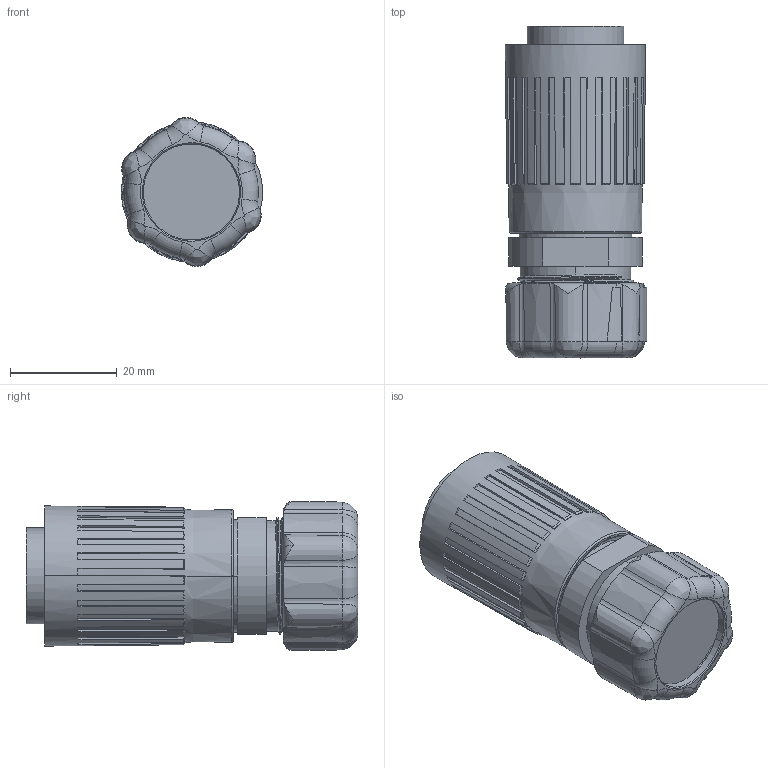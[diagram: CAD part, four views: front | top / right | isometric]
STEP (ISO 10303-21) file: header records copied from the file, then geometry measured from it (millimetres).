
FILE_DESCRIPTION((''),'2;1');
FILE_NAME('489','2019-07-16T',('Administrator'),(''),'CREO PARAMETRIC BY PTC INC, 2016130','CREO PARAMETRIC BY PTC INC, 2016130','');
FILE_SCHEMA(('CONFIG_CONTROL_DESIGN'));
Length unit declared in the file: millimetre
Products named in the file (1): 489
Bounding box: 26.41 x 62.02 x 27.84 mm (x, y, z)
Volume: 26740.3 mm3; surface area: 11049.3 mm2
Topology: 1 solids, 1 shells, 648 faces, 1906 edges, 1267 vertices
Faces by surface type: plane 252, bspline 127, cylinder 117, cone 87, torus 46, extrusion 19
Entity records: 27463 total; most frequent: CARTESIAN_POINT 11486, ORIENTED_EDGE 3812, DIRECTION 2718, EDGE_CURVE 1906, VERTEX_POINT 1267, AXIS2_PLACEMENT_3D 1033, B_SPLINE_CURVE_WITH_KNOTS 761, EDGE_LOOP 681
